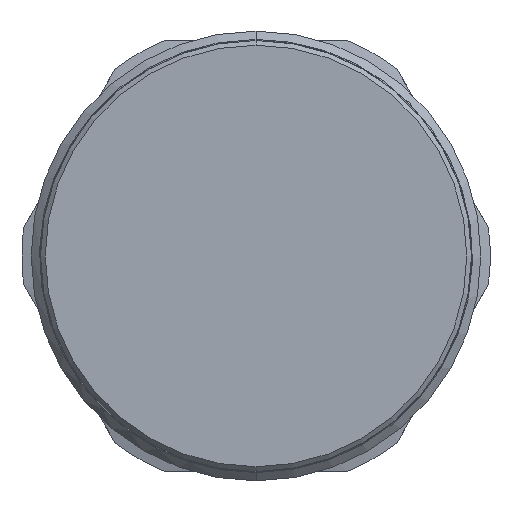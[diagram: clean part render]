
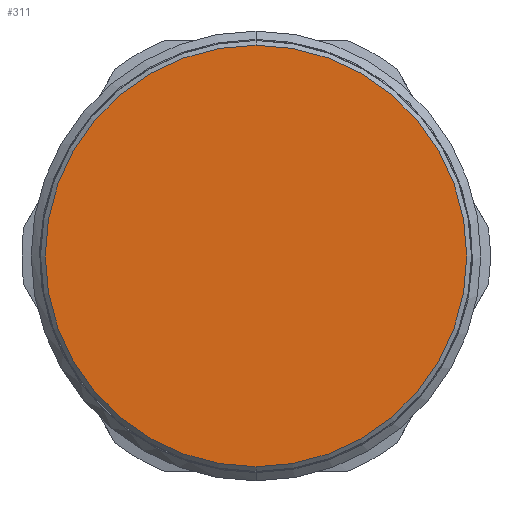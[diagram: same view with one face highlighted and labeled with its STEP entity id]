
A CAD part, front view. The second image highlights one B-rep face of the part: STEP entity #311.
In plain terms, the highlighted planar face has unit normal (0, -1, 0).
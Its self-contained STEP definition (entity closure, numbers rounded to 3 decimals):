
#286=CARTESIAN_POINT('',(0.0,-102.5,-22.5));
#287=VERTEX_POINT('',#286);
#288=CARTESIAN_POINT('',(0.0,-102.5,22.5));
#289=VERTEX_POINT('',#288);
#290=CARTESIAN_POINT('',(0.0,-102.5,0.0));
#291=DIRECTION('',(0.0,-1.0,0.0));
#292=DIRECTION('',(0.0,0.0,-1.0));
#293=AXIS2_PLACEMENT_3D('',#290,#291,#292);
#294=CIRCLE('',#293,22.5);
#295=EDGE_CURVE('no 2212',#287,#289,#294,.T.);
#296=ORIENTED_EDGE('',*,*,#295,.T.);
#297=CARTESIAN_POINT('',(0.0,-102.5,0.0));
#298=DIRECTION('',(0.0,-1.0,0.0));
#299=DIRECTION('',(0.0,0.0,-1.0));
#300=AXIS2_PLACEMENT_3D('',#297,#298,#299);
#301=CIRCLE('',#300,22.5);
#302=EDGE_CURVE('no 2216',#289,#287,#301,.T.);
#303=ORIENTED_EDGE('',*,*,#302,.T.);
#304=EDGE_LOOP('',(#296,#303));
#305=FACE_OUTER_BOUND('',#304,.T.);
#306=CARTESIAN_POINT('',(0.0,-102.5,0.0));
#307=DIRECTION('',(0.0,-1.0,0.0));
#308=DIRECTION('',(0.0,0.0,-1.0));
#309=AXIS2_PLACEMENT_3D('',#306,#307,#308);
#310=PLANE('',#309);
#311=ADVANCED_FACE('no 2203',(#305),#310,.T.);
